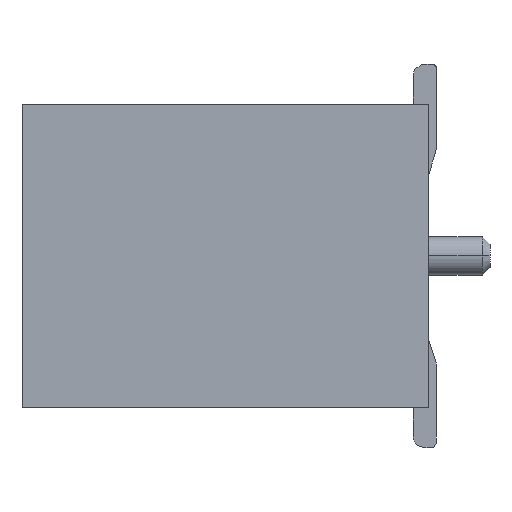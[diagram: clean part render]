
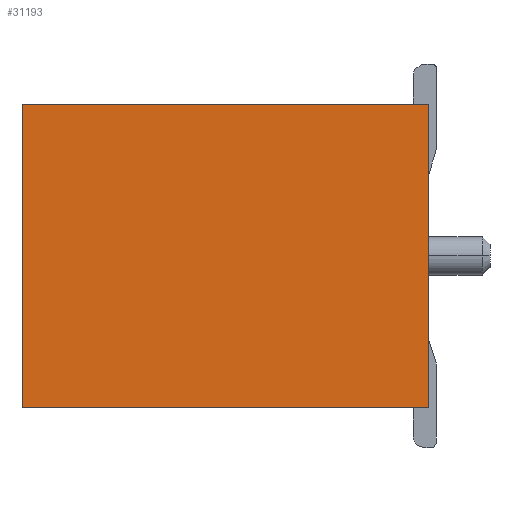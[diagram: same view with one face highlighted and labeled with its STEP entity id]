
A CAD part, left-side view. The second image highlights one B-rep face of the part: STEP entity #31193.
In plain terms, the highlighted planar face has unit normal (-1, 0, 0).
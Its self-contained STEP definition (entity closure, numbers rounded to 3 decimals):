
#500 = VECTOR ( 'NONE', #19939, 1000. ) ;
#1701 = EDGE_CURVE ( 'NONE', #30217, #35207, #37201, .T. ) ;
#1921 = FACE_OUTER_BOUND ( 'NONE', #22035, .T. ) ;
#5846 = CARTESIAN_POINT ( 'NONE',  ( -75.436, -2.65, 5.3 ) ) ;
#6351 = CARTESIAN_POINT ( 'NONE',  ( -75.436, -5.3, 3.325 ) ) ;
#8347 = CARTESIAN_POINT ( 'NONE',  ( -75.436, 0., 7.275 ) ) ;
#8455 = EDGE_CURVE ( 'NONE', #26485, #30217, #19731, .T. ) ;
#8764 = CARTESIAN_POINT ( 'NONE',  ( -75.436, -5.3, 7.275 ) ) ;
#9733 = DIRECTION ( 'NONE',  ( 0., 0., 1. ) ) ;
#13926 = ORIENTED_EDGE ( 'NONE', *, *, #45290, .F. ) ;
#14152 = VECTOR ( 'NONE', #37876, 1000. ) ;
#14325 = VECTOR ( 'NONE', #29577, 1000. ) ;
#16685 = ORIENTED_EDGE ( 'NONE', *, *, #23455, .F. ) ;
#16719 = LINE ( 'NONE', #30860, #29507 ) ;
#16799 = LINE ( 'NONE', #6351, #14152 ) ;
#17155 = VERTEX_POINT ( 'NONE', #32626 ) ;
#19112 = PLANE ( 'NONE',  #23213 ) ;
#19731 = LINE ( 'NONE', #36658, #500 ) ;
#19795 = DIRECTION ( 'NONE',  ( 0., 1., 0. ) ) ;
#19939 = DIRECTION ( 'NONE',  ( 0., 0., 1. ) ) ;
#22035 = EDGE_LOOP ( 'NONE', ( #36921, #13926, #16685, #28604 ) ) ;
#22765 = CARTESIAN_POINT ( 'NONE',  ( -75.436, -5.3, 3.325 ) ) ;
#23213 = AXIS2_PLACEMENT_3D ( 'NONE', #5846, #29750, #19795 ) ;
#23455 = EDGE_CURVE ( 'NONE', #26485, #17155, #16799, .T. ) ;
#25887 = CARTESIAN_POINT ( 'NONE',  ( -75.436, -5.3, 7.275 ) ) ;
#26485 = VERTEX_POINT ( 'NONE', #22765 ) ;
#28604 = ORIENTED_EDGE ( 'NONE', *, *, #8455, .T. ) ;
#29507 = VECTOR ( 'NONE', #9733, 1000. ) ;
#29577 = DIRECTION ( 'NONE',  ( 0., 1., 0. ) ) ;
#29750 = DIRECTION ( 'NONE',  ( 1., 0., 0. ) ) ;
#30217 = VERTEX_POINT ( 'NONE', #8764 ) ;
#30860 = CARTESIAN_POINT ( 'NONE',  ( -75.436, 0., 3.325 ) ) ;
#31193 = ADVANCED_FACE ( 'NONE', ( #1921 ), #19112, .F. ) ;
#32626 = CARTESIAN_POINT ( 'NONE',  ( -75.436, 0., 3.325 ) ) ;
#35207 = VERTEX_POINT ( 'NONE', #8347 ) ;
#36658 = CARTESIAN_POINT ( 'NONE',  ( -75.436, -5.3, 3.325 ) ) ;
#36921 = ORIENTED_EDGE ( 'NONE', *, *, #1701, .T. ) ;
#37201 = LINE ( 'NONE', #25887, #14325 ) ;
#37876 = DIRECTION ( 'NONE',  ( 0., 1., 0. ) ) ;
#45290 = EDGE_CURVE ( 'NONE', #17155, #35207, #16719, .T. ) ;
